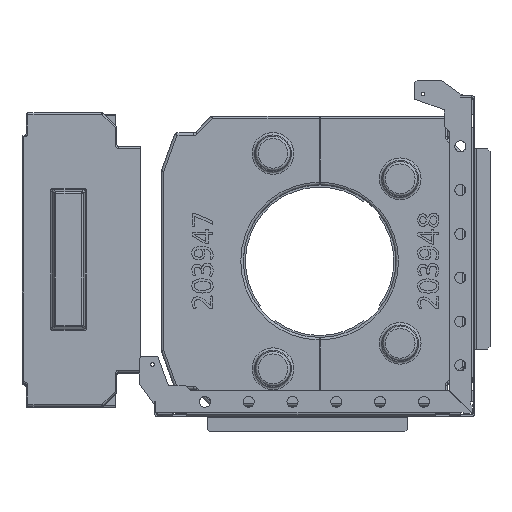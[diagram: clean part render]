
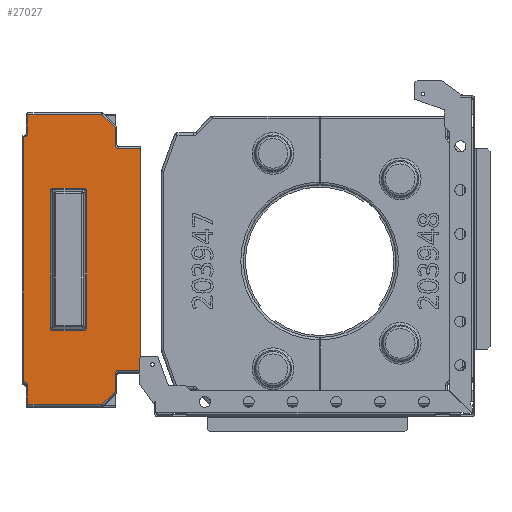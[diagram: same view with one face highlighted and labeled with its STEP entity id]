
A CAD part, top view. The second image highlights one B-rep face of the part: STEP entity #27027.
In plain terms, the highlighted planar face has unit normal (0, 0, 1).
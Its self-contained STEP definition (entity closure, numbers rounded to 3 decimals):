
#790=ELLIPSE('',#29202,4.278,4.);
#791=ELLIPSE('',#29203,4.278,4.);
#792=ELLIPSE('',#29204,4.278,4.);
#793=ELLIPSE('',#29205,4.278,4.);
#1186=CIRCLE('',#29206,4.);
#1187=CIRCLE('',#29207,4.);
#1188=CIRCLE('',#29208,4.);
#1189=CIRCLE('',#29209,4.);
#5009=ORIENTED_EDGE('',*,*,#11629,.F.);
#5010=ORIENTED_EDGE('',*,*,#11630,.T.);
#5011=ORIENTED_EDGE('',*,*,#11631,.F.);
#5012=ORIENTED_EDGE('',*,*,#11632,.T.);
#5013=ORIENTED_EDGE('',*,*,#11633,.F.);
#5014=ORIENTED_EDGE('',*,*,#11634,.T.);
#5015=ORIENTED_EDGE('',*,*,#11635,.F.);
#5016=ORIENTED_EDGE('',*,*,#11636,.T.);
#5017=ORIENTED_EDGE('',*,*,#11637,.T.);
#5018=ORIENTED_EDGE('',*,*,#11638,.T.);
#5019=ORIENTED_EDGE('',*,*,#11639,.F.);
#5020=ORIENTED_EDGE('',*,*,#11640,.T.);
#5021=ORIENTED_EDGE('',*,*,#11641,.T.);
#5022=ORIENTED_EDGE('',*,*,#11642,.T.);
#5023=ORIENTED_EDGE('',*,*,#11643,.T.);
#5024=ORIENTED_EDGE('',*,*,#11644,.F.);
#5025=ORIENTED_EDGE('',*,*,#11645,.T.);
#5026=ORIENTED_EDGE('',*,*,#11646,.F.);
#5027=ORIENTED_EDGE('',*,*,#11647,.T.);
#5028=ORIENTED_EDGE('',*,*,#11648,.F.);
#5029=ORIENTED_EDGE('',*,*,#11649,.T.);
#5030=ORIENTED_EDGE('',*,*,#11650,.T.);
#5031=ORIENTED_EDGE('',*,*,#11651,.T.);
#5032=ORIENTED_EDGE('',*,*,#11652,.T.);
#5033=ORIENTED_EDGE('',*,*,#11653,.F.);
#5034=ORIENTED_EDGE('',*,*,#11654,.T.);
#11629=EDGE_CURVE('',#15159,#15160,#790,.F.);
#11630=EDGE_CURVE('',#15159,#15161,#17956,.T.);
#11631=EDGE_CURVE('',#15162,#15161,#791,.F.);
#11632=EDGE_CURVE('',#15162,#15163,#17957,.T.);
#11633=EDGE_CURVE('',#15164,#15163,#792,.F.);
#11634=EDGE_CURVE('',#15164,#15165,#17958,.T.);
#11635=EDGE_CURVE('',#15166,#15165,#793,.F.);
#11636=EDGE_CURVE('',#15166,#15160,#17959,.T.);
#11637=EDGE_CURVE('',#15167,#15168,#17960,.F.);
#11638=EDGE_CURVE('',#15168,#15169,#17961,.F.);
#11639=EDGE_CURVE('',#15170,#15169,#1186,.F.);
#11640=EDGE_CURVE('',#15170,#15171,#17962,.F.);
#11641=EDGE_CURVE('',#15171,#15172,#17963,.F.);
#11642=EDGE_CURVE('',#15172,#15173,#17964,.F.);
#11643=EDGE_CURVE('',#15173,#15174,#17965,.F.);
#11644=EDGE_CURVE('',#15175,#15174,#1187,.F.);
#11645=EDGE_CURVE('',#15175,#15176,#17966,.F.);
#11646=EDGE_CURVE('',#15177,#15176,#17967,.T.);
#11647=EDGE_CURVE('',#15177,#15178,#17968,.F.);
#11648=EDGE_CURVE('',#15179,#15178,#1188,.F.);
#11649=EDGE_CURVE('',#15179,#15180,#17969,.F.);
#11650=EDGE_CURVE('',#15180,#15181,#17970,.F.);
#11651=EDGE_CURVE('',#15181,#15182,#17971,.F.);
#11652=EDGE_CURVE('',#15182,#15183,#17972,.T.);
#11653=EDGE_CURVE('',#15184,#15183,#1189,.F.);
#11654=EDGE_CURVE('',#15184,#15167,#17973,.T.);
#15159=VERTEX_POINT('',#40919);
#15160=VERTEX_POINT('',#40920);
#15161=VERTEX_POINT('',#40922);
#15162=VERTEX_POINT('',#40924);
#15163=VERTEX_POINT('',#40926);
#15164=VERTEX_POINT('',#40928);
#15165=VERTEX_POINT('',#40930);
#15166=VERTEX_POINT('',#40932);
#15167=VERTEX_POINT('',#40935);
#15168=VERTEX_POINT('',#40936);
#15169=VERTEX_POINT('',#40938);
#15170=VERTEX_POINT('',#40940);
#15171=VERTEX_POINT('',#40942);
#15172=VERTEX_POINT('',#40944);
#15173=VERTEX_POINT('',#40946);
#15174=VERTEX_POINT('',#40948);
#15175=VERTEX_POINT('',#40950);
#15176=VERTEX_POINT('',#40952);
#15177=VERTEX_POINT('',#40954);
#15178=VERTEX_POINT('',#40956);
#15179=VERTEX_POINT('',#40958);
#15180=VERTEX_POINT('',#40960);
#15181=VERTEX_POINT('',#40962);
#15182=VERTEX_POINT('',#40964);
#15183=VERTEX_POINT('',#40966);
#15184=VERTEX_POINT('',#40968);
#17956=LINE('',#40921,#20549);
#17957=LINE('',#40925,#20550);
#17958=LINE('',#40929,#20551);
#17959=LINE('',#40933,#20552);
#17960=LINE('',#40934,#20553);
#17961=LINE('',#40937,#20554);
#17962=LINE('',#40941,#20555);
#17963=LINE('',#40943,#20556);
#17964=LINE('',#40945,#20557);
#17965=LINE('',#40947,#20558);
#17966=LINE('',#40951,#20559);
#17967=LINE('',#40953,#20560);
#17968=LINE('',#40955,#20561);
#17969=LINE('',#40959,#20562);
#17970=LINE('',#40961,#20563);
#17971=LINE('',#40963,#20564);
#17972=LINE('',#40965,#20565);
#17973=LINE('',#40969,#20566);
#20549=VECTOR('',#33408,1000.);
#20550=VECTOR('',#33411,1000.);
#20551=VECTOR('',#33414,1000.);
#20552=VECTOR('',#33417,1000.);
#20553=VECTOR('',#33418,1000.);
#20554=VECTOR('',#33419,1000.);
#20555=VECTOR('',#33422,1000.);
#20556=VECTOR('',#33423,1000.);
#20557=VECTOR('',#33424,1000.);
#20558=VECTOR('',#33425,1000.);
#20559=VECTOR('',#33428,1000.);
#20560=VECTOR('',#33429,1000.);
#20561=VECTOR('',#33430,1000.);
#20562=VECTOR('',#33433,1000.);
#20563=VECTOR('',#33434,1000.);
#20564=VECTOR('',#33435,1000.);
#20565=VECTOR('',#33436,1000.);
#20566=VECTOR('',#33439,1000.);
#22612=EDGE_LOOP('',(#5009,#5010,#5011,#5012,#5013,#5014,#5015,#5016));
#22613=EDGE_LOOP('',(#5017,#5018,#5019,#5020,#5021,#5022,#5023,#5024,#5025,
#5026,#5027,#5028,#5029,#5030,#5031,#5032,#5033,#5034));
#24501=FACE_BOUND('',#22612,.T.);
#24502=FACE_BOUND('',#22613,.T.);
#26137=PLANE('',#29201);
#27027=ADVANCED_FACE('',(#24501,#24502),#26137,.F.);
#29201=AXIS2_PLACEMENT_3D('',#40917,#33404,#33405);
#29202=AXIS2_PLACEMENT_3D('',#40918,#33406,#33407);
#29203=AXIS2_PLACEMENT_3D('',#40923,#33409,#33410);
#29204=AXIS2_PLACEMENT_3D('',#40927,#33412,#33413);
#29205=AXIS2_PLACEMENT_3D('',#40931,#33415,#33416);
#29206=AXIS2_PLACEMENT_3D('',#40939,#33420,#33421);
#29207=AXIS2_PLACEMENT_3D('',#40949,#33426,#33427);
#29208=AXIS2_PLACEMENT_3D('',#40957,#33431,#33432);
#29209=AXIS2_PLACEMENT_3D('',#40967,#33437,#33438);
#33404=DIRECTION('',(0.,0.,-1.));
#33405=DIRECTION('',(-1.,0.,0.));
#33406=DIRECTION('',(0.,0.,-1.));
#33407=DIRECTION('',(0.707,0.707,0.));
#33408=DIRECTION('',(0.,-1.,0.));
#33409=DIRECTION('',(0.,0.,-1.));
#33410=DIRECTION('',(0.707,-0.707,0.));
#33411=DIRECTION('',(-1.,0.,0.));
#33412=DIRECTION('',(0.,0.,-1.));
#33413=DIRECTION('',(-0.707,-0.707,0.));
#33414=DIRECTION('',(0.,1.,0.));
#33415=DIRECTION('',(0.,0.,-1.));
#33416=DIRECTION('',(-0.707,0.707,0.));
#33417=DIRECTION('',(1.,0.,0.));
#33418=DIRECTION('',(-1.,0.,0.));
#33419=DIRECTION('',(-0.423,-0.906,0.));
#33420=DIRECTION('',(0.,0.,-1.));
#33421=DIRECTION('',(-1.,0.,0.));
#33422=DIRECTION('',(-1.,0.,0.));
#33423=DIRECTION('',(0.,-1.,0.));
#33424=DIRECTION('',(0.707,-0.707,0.));
#33425=DIRECTION('',(1.,0.,0.));
#33426=DIRECTION('',(0.,0.,-1.));
#33427=DIRECTION('',(-1.,0.,0.));
#33428=DIRECTION('',(0.,-1.,0.));
#33429=DIRECTION('',(1.,0.,0.));
#33430=DIRECTION('',(0.,1.,0.));
#33431=DIRECTION('',(0.,0.,-1.));
#33432=DIRECTION('',(-1.,0.,0.));
#33433=DIRECTION('',(1.,0.,0.));
#33434=DIRECTION('',(0.707,0.707,0.));
#33435=DIRECTION('',(0.,1.,0.));
#33436=DIRECTION('',(1.,0.,0.));
#33437=DIRECTION('',(0.,0.,-1.));
#33438=DIRECTION('',(-1.,0.,0.));
#33439=DIRECTION('',(0.423,-0.906,0.));
#40917=CARTESIAN_POINT('',(0.,0.,128.));
#40918=CARTESIAN_POINT('',(79.894,72.394,128.));
#40919=CARTESIAN_POINT('',(84.035,72.671,128.));
#40920=CARTESIAN_POINT('',(80.171,76.535,128.));
#40921=CARTESIAN_POINT('',(84.035,35.,128.));
#40922=CARTESIAN_POINT('',(84.035,37.329,128.));
#40923=CARTESIAN_POINT('',(79.894,37.606,128.));
#40924=CARTESIAN_POINT('',(80.171,33.465,128.));
#40925=CARTESIAN_POINT('',(-82.5,33.465,128.));
#40926=CARTESIAN_POINT('',(-80.171,33.465,128.));
#40927=CARTESIAN_POINT('',(-79.894,37.606,128.));
#40928=CARTESIAN_POINT('',(-84.035,37.329,128.));
#40929=CARTESIAN_POINT('',(-84.035,75.,128.));
#40930=CARTESIAN_POINT('',(-84.035,72.671,128.));
#40931=CARTESIAN_POINT('',(-79.894,72.394,128.));
#40932=CARTESIAN_POINT('',(-80.171,76.535,128.));
#40933=CARTESIAN_POINT('',(82.5,76.535,128.));
#40934=CARTESIAN_POINT('',(173.,2.,128.));
#40935=CARTESIAN_POINT('',(-143.726,2.,128.));
#40936=CARTESIAN_POINT('',(143.726,2.,128.));
#40937=CARTESIAN_POINT('',(117.289,-54.693,128.));
#40938=CARTESIAN_POINT('',(144.98,4.69,128.));
#40939=CARTESIAN_POINT('',(148.606,3.,128.));
#40940=CARTESIAN_POINT('',(148.606,7.,128.));
#40941=CARTESIAN_POINT('',(0.,7.,128.));
#40942=CARTESIAN_POINT('',(171.,7.,128.));
#40943=CARTESIAN_POINT('',(171.,95.,128.));
#40944=CARTESIAN_POINT('',(171.,94.172,128.));
#40945=CARTESIAN_POINT('',(154.586,110.586,128.));
#40946=CARTESIAN_POINT('',(155.172,110.,128.));
#40947=CARTESIAN_POINT('',(133.,110.,128.));
#40948=CARTESIAN_POINT('',(135.,110.,128.));
#40949=CARTESIAN_POINT('',(135.,114.,128.));
#40950=CARTESIAN_POINT('',(131.,114.,128.));
#40951=CARTESIAN_POINT('',(131.,140.,128.));
#40952=CARTESIAN_POINT('',(131.,140.,128.));
#40953=CARTESIAN_POINT('',(-133.,140.,128.));
#40954=CARTESIAN_POINT('',(-131.,140.,128.));
#40955=CARTESIAN_POINT('',(-131.,112.,128.));
#40956=CARTESIAN_POINT('',(-131.,114.,128.));
#40957=CARTESIAN_POINT('',(-135.,114.,128.));
#40958=CARTESIAN_POINT('',(-135.,110.,128.));
#40959=CARTESIAN_POINT('',(-156.,110.,128.));
#40960=CARTESIAN_POINT('',(-155.172,110.,128.));
#40961=CARTESIAN_POINT('',(-171.586,93.586,128.));
#40962=CARTESIAN_POINT('',(-171.,94.172,128.));
#40963=CARTESIAN_POINT('',(-171.,0.,128.));
#40964=CARTESIAN_POINT('',(-171.,7.,128.));
#40965=CARTESIAN_POINT('',(-147.332,7.,128.));
#40966=CARTESIAN_POINT('',(-148.606,7.,128.));
#40967=CARTESIAN_POINT('',(-148.606,3.,128.));
#40968=CARTESIAN_POINT('',(-144.98,4.69,128.));
#40969=CARTESIAN_POINT('',(-144.12,2.845,128.));
